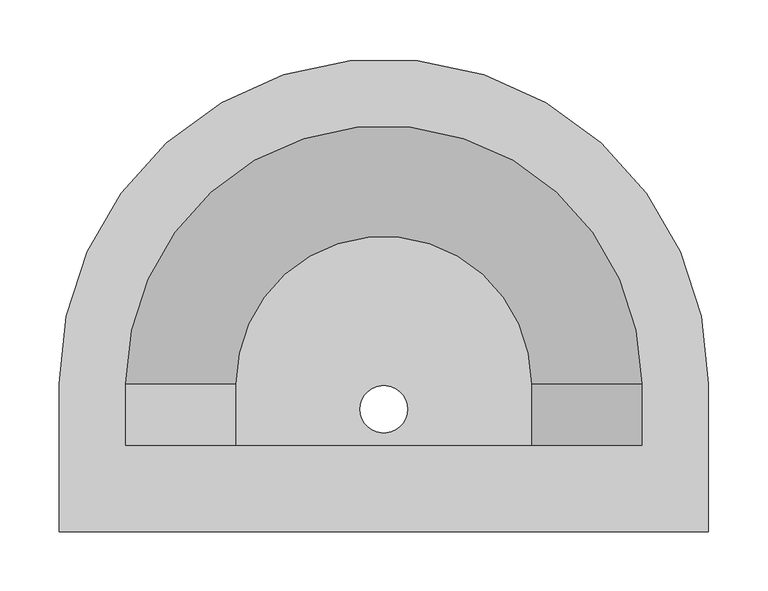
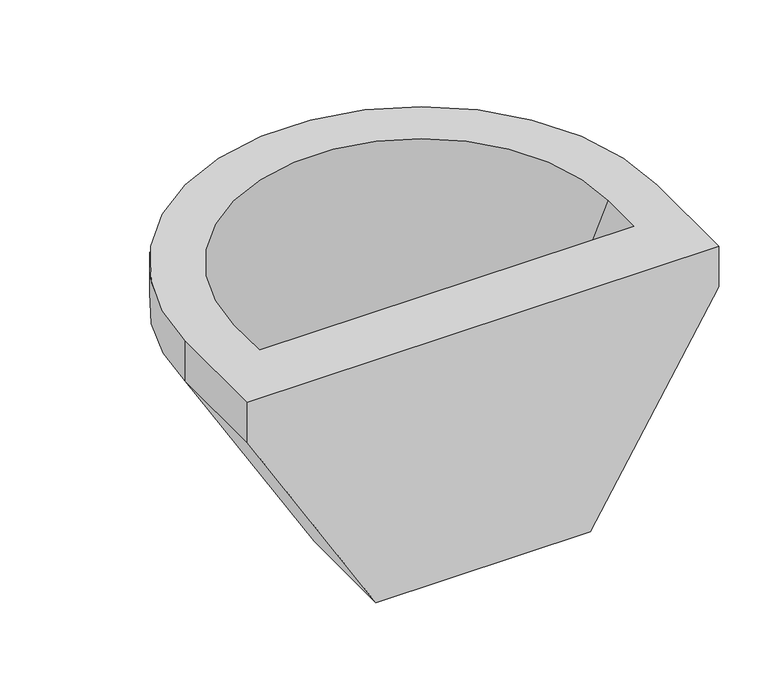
"""IFC4 building model written with IfcOpenShell, lengths in millimetres: flow terminal geometry, BIMHealth-Wash_basin_Doc_M-LOD2A-v1 : BIMHealth-Wash_basin_Doc_M-LOD2A-v1."""

from ifc_helpers import new_model, si_unit, frame, origin, place, context, project, spatial, polyline, circle_curve, source, transform, mapped, element, save
from ifc_brep_helpers import plane_surface, cylinder_surface, revolved_surface, advanced_brep


def flow_terminal_9bf15598(model_context):
    return source(origin(), model_context, "Body", "AdvancedBrep", [
        advanced_brep(
        [(550.0, 125.0, 300.0), (0.0, 125.0, 300.0), (0.0, 0.0, 300.0), (550.0, 0.0, 300.0), (493.4285972, 125.0, 300.0), (493.4285972, 73.3571493, 300.0), (56.5714028, 73.3571493, 300.0), (56.5714028, 125.0, 300.0), (550.0, 0.0, 250.0), (550.0, 125.0, 250.0), (0.0, 0.0, 250.0), (150.0, 0.0, 0.0), (400.0, 0.0, 0.0), (0.0, 125.0, 250.0), (150.0, 125.0, 80.3895226), (150.0, 50.0, 80.3895226), (400.0, 50.0, 80.3895226), (400.0, 125.0, 80.3895226), (295.0, 103.75, 80.3895226), (255.0, 103.75, 80.3895226), (150.0, 125.0, 0.0), (400.0, 125.0, 0.0), (255.0, 103.75, 0.0), (295.0, 103.75, 0.0)],
        [
            (0, 1, circle_curve(frame((275.0, 125.0, 300.0), z_axis=(0.0, 0.0, 1.0), x_axis=(-1.0, 0.0, 0.0)), 275.0)),
            (1, 2),
            (2, 3),
            (3, 0),
            (4, 5),
            (5, 6),
            (6, 7),
            (7, 4, circle_curve(frame((275.0, 125.0, 300.0), z_axis=(0.0, 0.0, -1.0), x_axis=(-1.0, 0.0, 0.0)), 218.4285972)),
            (3, 8),
            (8, 9),
            (9, 0),
            (2, 10),
            (10, 11),
            (11, 12),
            (12, 8),
            (1, 13),
            (13, 10),
            (9, 13, circle_curve(frame((275.0, 125.0, 250.0), z_axis=(0.0, 0.0, 1.0), x_axis=(-1.0, 0.0, 0.0)), 275.0)),
            (14, 15),
            (15, 16),
            (16, 17),
            (17, 14, circle_curve(frame((275.0, 125.0, 80.3895226), z_axis=(0.0, 0.0, 1.0), x_axis=(-1.0, 0.0, 0.0)), 125.0)),
            (18, 19, circle_curve(frame((275.0, 103.75, 80.3895226), z_axis=(0.0, 0.0, -1.0), x_axis=(1.0, 0.0, 0.0)), 20.0)),
            (19, 18, circle_curve(frame((275.0, 103.75, 80.3895226), z_axis=(0.0, 0.0, -1.0), x_axis=(1.0, 0.0, 0.0)), 20.0)),
            (17, 4),
            (7, 14),
            (16, 5),
            (6, 15),
            (20, 21, circle_curve(frame((275.0, 125.0, 0.0), z_axis=(0.0, 0.0, -1.0), x_axis=(-1.0, 0.0, 0.0)), 125.0)),
            (21, 12),
            (11, 20),
            (22, 23, circle_curve(frame((275.0, 103.75, 0.0), z_axis=(0.0, 0.0, 1.0), x_axis=(1.0, 0.0, 0.0)), 20.0)),
            (23, 22, circle_curve(frame((275.0, 103.75, 0.0), z_axis=(0.0, 0.0, 1.0), x_axis=(1.0, 0.0, 0.0)), 20.0)),
            (20, 13),
            (9, 21),
            (23, 18),
            (19, 22),
        ],
        [
            plane_surface(frame((550.0, 0.0, 300.0), z_axis=(0.0, 0.0, 1.0), x_axis=(0.0, -1.0, 0.0))),
            plane_surface(frame((550.0, 125.0, 300.0), z_axis=(1.0, 0.0, 0.0), x_axis=(0.0, 0.0, -1.0))),
            plane_surface(frame((550.0, 0.0, 300.0), z_axis=(0.0, -1.0, 0.0), x_axis=(0.0, 0.0, -1.0))),
            plane_surface(frame((0.0, 0.0, 300.0), z_axis=(-1.0, 0.0, 0.0), x_axis=(0.0, 0.0, -1.0))),
            cylinder_surface(frame((275.0, 125.0, 250.0), z_axis=(0.0, 0.0, 1.0), x_axis=(-1.0, 0.0, 0.0)), 275.0),
            plane_surface(frame((275.0, 87.5, 80.3895226), z_axis=(0.0, 0.0, 1.0), x_axis=(0.0, 1.0, 0.0))),
            revolved_surface(polyline([(493.4285972, 125.0, 300.0), (400.0000000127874, 125.0, 80.38952259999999)]), (275.0, 125.0, -213.4317538), (0.0, 0.0, 1.0)),
            plane_surface(frame((400.0, 87.5, 80.3895226), z_axis=(-0.9201888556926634, 0.0, 0.3914747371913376), x_axis=(0.0, -1.0, 0.0))),
            plane_surface(frame((150.0, 87.5, 80.3895226), z_axis=(0.9201888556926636, 0.0, 0.3914747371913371), x_axis=(0.0, 1.0, 0.0))),
            plane_surface(frame((275.0, 62.5, 0.0), z_axis=(0.0, 0.0, -1.0), x_axis=(-1.0, 0.0, 0.0))),
            revolved_surface(polyline([(150.0000000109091, 125.0, 0.0), (0.0, 125.0, 250.0)]), (275.0, 125.0, -208.3333333), (0.0, 0.0, 1.0)),
            plane_surface(frame((400.0, 62.5, 0.0), z_axis=(0.8574929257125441, 0.0, -0.5144957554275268), x_axis=(0.0, -1.0, 0.0))),
            plane_surface(frame((150.0, 62.5, 0.0), z_axis=(-0.8574929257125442, 0.0, -0.5144957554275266), x_axis=(0.0, 1.0, 0.0))),
            revolved_surface(polyline([(295.0, 103.75, 80.38952260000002), (295.0, 103.75, 0.0)]), (275.0, 103.75, -130.4390884), (0.0, 0.0, 1.0)),
            plane_surface(frame((275.0, 50.0, 80.3895226), z_axis=(0.0, 0.9943916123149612, -0.10576067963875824), x_axis=(-1.0, 0.0, 0.0))),
        ],
        [
            (0, [[1, 2, 3, 4], [5, 6, 7, 8]]),
            (1, [[9, 10, 11, -4]]),
            (2, [[12, 13, 14, 15, -9, -3]]),
            (3, [[16, 17, -12, -2]]),
            (4, [[-11, 18, -16, -1]]),
            (5, [[19, 20, 21, 22], [23, 24]]),
            (6, [[25, -8, 26, -22]]),
            (7, [[27, -5, -25, -21]]),
            (8, [[-26, -7, 28, -19]]),
            (9, [[29, 30, -14, 31], [32, 33]]),
            (10, [[34, -18, 35, -29]]),
            (11, [[-35, -10, -15, -30]]),
            (12, [[-13, -17, -34, -31]]),
            (13, [[-33, 36, -24, 37]]),
            (13, [[-23, -36, -32, -37]]),
            (14, [[-28, -6, -27, -20]]),
        ],
    ),
    ])


if __name__ == "__main__":
    model = new_model("IFC4")
    model_context = context("Model", 3, world=origin())
    ifc_project = project(units=[si_unit("LENGTHUNIT", "METRE", prefix="MILLI")], contexts=[model_context])
    site = spatial("IfcSite", under=ifc_project)
    building = spatial("IfcBuilding", under=site)
    placement = place(None, origin())
    flow_terminal_shape = flow_terminal_9bf15598(model_context)
    element("IfcFlowTerminal", 1, ObjectType="BIMHealth-Wash_basin_Doc_M-LOD2A-v1 : BIMHealth-Wash_basin_Doc_M-LOD2A-v1", at=placement, inside=building, context=model_context, shape_type="MappedRepresentation", body=[
        mapped(flow_terminal_shape, transform((0.0, 0.0, 0.0), x_axis=(1.0, 0.0, 0.0), y_axis=(0.0, 1.0, 0.0), z_axis=(0.0, 0.0, 1.0))),
    ])
    save(model, "model.ifc")
